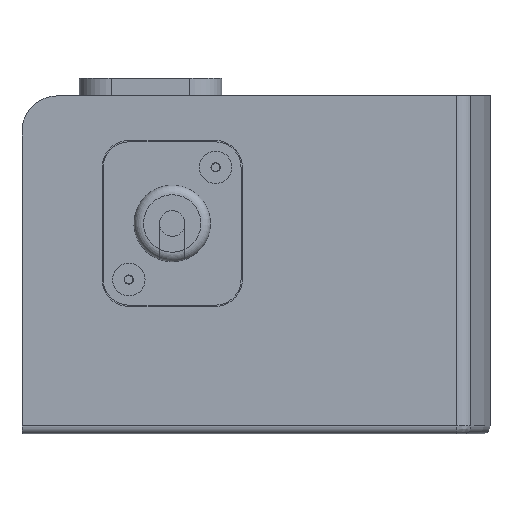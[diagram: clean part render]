
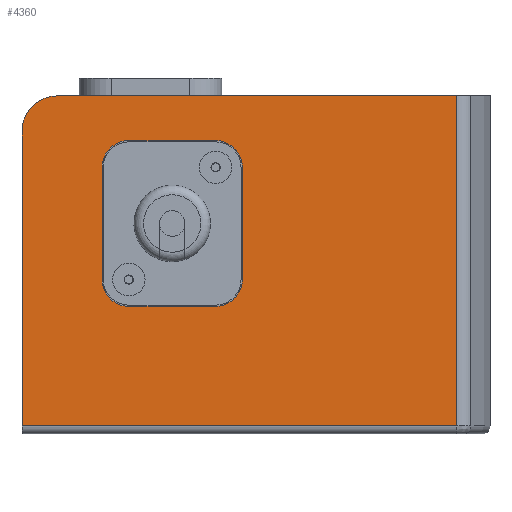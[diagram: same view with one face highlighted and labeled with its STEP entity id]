
A CAD part, front view. The second image highlights one B-rep face of the part: STEP entity #4360.
In plain terms, the highlighted planar face has unit normal (0, -1, 0).
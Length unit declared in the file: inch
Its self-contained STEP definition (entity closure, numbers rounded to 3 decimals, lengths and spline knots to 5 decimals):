
#132=FACE_BOUND('',#778,.T.);
#256=CIRCLE('',#4712,0.275);
#258=CIRCLE('',#4730,0.21);
#259=CIRCLE('',#4731,0.21);
#260=CIRCLE('',#4732,0.21);
#261=CIRCLE('',#4733,0.21);
#501=FACE_OUTER_BOUND('',#777,.T.);
#777=EDGE_LOOP('',(#3602,#3603,#3604,#3605,#3606));
#778=EDGE_LOOP('',(#3607,#3608,#3609,#3610,#3611,#3612,#3613,#3614));
#1149=LINE('',#7105,#1560);
#1152=LINE('',#7113,#1563);
#1153=LINE('',#7116,#1564);
#1154=LINE('',#7118,#1565);
#1167=LINE('',#7194,#1578);
#1168=LINE('',#7198,#1579);
#1169=LINE('',#7202,#1580);
#1170=LINE('',#7206,#1581);
#1560=VECTOR('',#5625,1.);
#1563=VECTOR('',#5634,1.);
#1564=VECTOR('',#5639,1.);
#1565=VECTOR('',#5642,1.);
#1578=VECTOR('',#5681,1.);
#1579=VECTOR('',#5684,1.);
#1580=VECTOR('',#5687,1.);
#1581=VECTOR('',#5690,1.);
#2007=VERTEX_POINT('',#7066);
#2022=VERTEX_POINT('',#7102);
#2023=VERTEX_POINT('',#7104);
#2024=VERTEX_POINT('',#7108);
#2025=VERTEX_POINT('',#7112);
#2038=VERTEX_POINT('',#7192);
#2039=VERTEX_POINT('',#7193);
#2040=VERTEX_POINT('',#7195);
#2041=VERTEX_POINT('',#7197);
#2042=VERTEX_POINT('',#7199);
#2043=VERTEX_POINT('',#7201);
#2044=VERTEX_POINT('',#7203);
#2045=VERTEX_POINT('',#7205);
#2556=EDGE_CURVE('',#2022,#2023,#1149,.T.);
#2558=EDGE_CURVE('',#2023,#2024,#256,.T.);
#2560=EDGE_CURVE('',#2025,#2024,#1152,.T.);
#2562=EDGE_CURVE('',#2025,#2007,#1153,.T.);
#2563=EDGE_CURVE('',#2007,#2022,#1154,.T.);
#2588=EDGE_CURVE('',#2038,#2039,#1167,.T.);
#2589=EDGE_CURVE('',#2039,#2040,#258,.T.);
#2590=EDGE_CURVE('',#2040,#2041,#1168,.T.);
#2591=EDGE_CURVE('',#2041,#2042,#259,.T.);
#2592=EDGE_CURVE('',#2042,#2043,#1169,.T.);
#2593=EDGE_CURVE('',#2043,#2044,#260,.T.);
#2594=EDGE_CURVE('',#2044,#2045,#1170,.T.);
#2595=EDGE_CURVE('',#2045,#2038,#261,.T.);
#3602=ORIENTED_EDGE('',*,*,#2563,.F.);
#3603=ORIENTED_EDGE('',*,*,#2562,.F.);
#3604=ORIENTED_EDGE('',*,*,#2560,.T.);
#3605=ORIENTED_EDGE('',*,*,#2558,.F.);
#3606=ORIENTED_EDGE('',*,*,#2556,.F.);
#3607=ORIENTED_EDGE('',*,*,#2588,.T.);
#3608=ORIENTED_EDGE('',*,*,#2589,.T.);
#3609=ORIENTED_EDGE('',*,*,#2590,.T.);
#3610=ORIENTED_EDGE('',*,*,#2591,.T.);
#3611=ORIENTED_EDGE('',*,*,#2592,.T.);
#3612=ORIENTED_EDGE('',*,*,#2593,.T.);
#3613=ORIENTED_EDGE('',*,*,#2594,.T.);
#3614=ORIENTED_EDGE('',*,*,#2595,.T.);
#4136=PLANE('',#4729);
#4360=ADVANCED_FACE('',(#501,#132),#4136,.T.);
#4712=AXIS2_PLACEMENT_3D('',#7109,#5629,#5630);
#4729=AXIS2_PLACEMENT_3D('',#7191,#5679,#5680);
#4730=AXIS2_PLACEMENT_3D('',#7196,#5682,#5683);
#4731=AXIS2_PLACEMENT_3D('',#7200,#5685,#5686);
#4732=AXIS2_PLACEMENT_3D('',#7204,#5688,#5689);
#4733=AXIS2_PLACEMENT_3D('',#7207,#5691,#5692);
#5625=DIRECTION('',(0.,0.,1.));
#5629=DIRECTION('center_axis',(0.,1.,0.));
#5630=DIRECTION('ref_axis',(-0.707,0.,0.707));
#5634=DIRECTION('',(-1.,0.,0.));
#5639=DIRECTION('',(0.,0.,-1.));
#5642=DIRECTION('',(-1.,0.,0.));
#5679=DIRECTION('center_axis',(0.,-1.,0.));
#5680=DIRECTION('ref_axis',(1.,0.,0.));
#5681=DIRECTION('',(0.,0.,1.));
#5682=DIRECTION('center_axis',(0.,1.,0.));
#5683=DIRECTION('ref_axis',(-1.,0.,0.));
#5684=DIRECTION('',(1.,0.,0.));
#5685=DIRECTION('center_axis',(0.,1.,0.));
#5686=DIRECTION('ref_axis',(0.,0.,
1.));
#5687=DIRECTION('',(0.,0.,-1.));
#5688=DIRECTION('center_axis',(0.,1.,0.));
#5689=DIRECTION('ref_axis',(1.,0.,0.));
#5690=DIRECTION('',(-1.,0.,0.));
#5691=DIRECTION('center_axis',(0.,1.,0.));
#5692=DIRECTION('ref_axis',(0.,0.,
-1.));
#7066=CARTESIAN_POINT('',(6.40016,35.47064,6.5915));
#7102=CARTESIAN_POINT('',(2.99457,35.47064,6.5915));
#7104=CARTESIAN_POINT('',(2.99457,35.47064,8.904));
#7105=CARTESIAN_POINT('',(2.99457,35.47064,7.1915));
#7108=CARTESIAN_POINT('',(3.26957,35.47064,9.179));
#7109=CARTESIAN_POINT('Origin',(3.26957,35.47064,8.904));
#7112=CARTESIAN_POINT('',(6.40016,35.47064,9.179));
#7113=CARTESIAN_POINT('',(3.47957,35.47064,9.179));
#7116=CARTESIAN_POINT('',(6.40016,35.47064,8.289));
#7118=CARTESIAN_POINT('',(3.54457,35.47064,6.5915));
#7191=CARTESIAN_POINT('Origin',(3.47957,35.47064,6.529));
#7192=CARTESIAN_POINT('',(3.62207,35.47064,7.739));
#7193=CARTESIAN_POINT('',(3.62207,35.47064,8.619));
#7194=CARTESIAN_POINT('',(3.62207,35.47064,7.574));
#7195=CARTESIAN_POINT('',(3.83207,35.47064,8.829));
#7196=CARTESIAN_POINT('Origin',(3.83207,35.47064,8.619));
#7197=CARTESIAN_POINT('',(4.51207,35.47064,8.829));
#7198=CARTESIAN_POINT('',(3.99582,35.47064,8.829));
#7199=CARTESIAN_POINT('',(4.72207,35.47064,8.619));
#7200=CARTESIAN_POINT('Origin',(4.51207,35.47064,8.619));
#7201=CARTESIAN_POINT('',(4.72207,35.47064,7.739));
#7202=CARTESIAN_POINT('',(4.72207,35.47064,7.134));
#7203=CARTESIAN_POINT('',(4.51207,35.47064,7.529));
#7204=CARTESIAN_POINT('Origin',(4.51207,35.47064,7.739));
#7205=CARTESIAN_POINT('',(3.83207,35.47064,7.529));
#7206=CARTESIAN_POINT('',(3.65582,35.47064,7.529));
#7207=CARTESIAN_POINT('Origin',(3.83207,35.47064,7.739));
